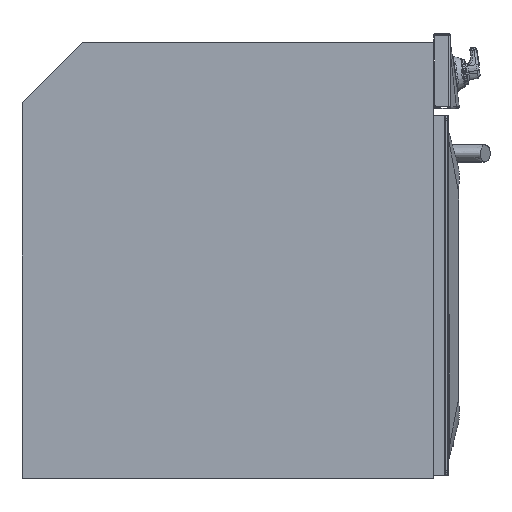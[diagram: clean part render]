
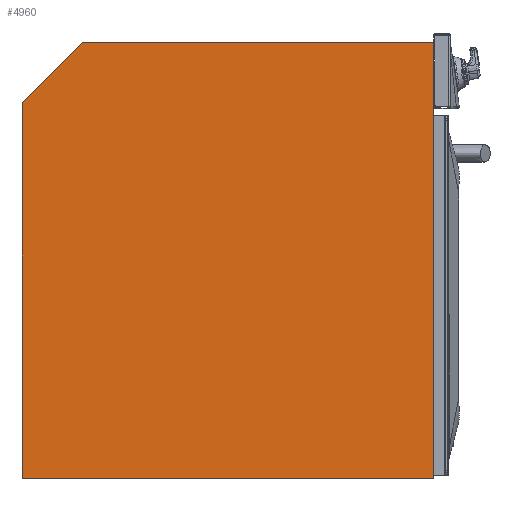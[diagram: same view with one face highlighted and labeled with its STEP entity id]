
A CAD part, front view. The second image highlights one B-rep face of the part: STEP entity #4960.
In plain terms, the highlighted planar face has unit normal (0, -1, 0).
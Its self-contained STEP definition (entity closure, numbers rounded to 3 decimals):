
#4960=ADVANCED_FACE('',(#6288),#5875,.T.);
#5875=PLANE('',#19215);
#6288=FACE_OUTER_BOUND('',#7313,.T.);
#7313=EDGE_LOOP('',(#9183,#9184,#9185,#9186,#9187));
#9183=ORIENTED_EDGE('',*,*,#15021,.T.);
#9184=ORIENTED_EDGE('',*,*,#15025,.T.);
#9185=ORIENTED_EDGE('',*,*,#15028,.T.);
#9186=ORIENTED_EDGE('',*,*,#15031,.T.);
#9187=ORIENTED_EDGE('',*,*,#15034,.T.);
#13369=VERTEX_POINT('',#34792);
#13370=VERTEX_POINT('',#34793);
#13373=VERTEX_POINT('',#34801);
#13375=VERTEX_POINT('',#34807);
#13377=VERTEX_POINT('',#34813);
#15021=EDGE_CURVE('',#13369,#13370,#17119,.T.);
#15025=EDGE_CURVE('',#13370,#13373,#17123,.T.);
#15028=EDGE_CURVE('',#13373,#13375,#17126,.T.);
#15031=EDGE_CURVE('',#13375,#13377,#17129,.T.);
#15034=EDGE_CURVE('',#13377,#13369,#17132,.T.);
#17119=LINE('',#34791,#18048);
#17123=LINE('',#34800,#18052);
#17126=LINE('',#34806,#18055);
#17129=LINE('',#34812,#18058);
#17132=LINE('',#34818,#18061);
#18048=VECTOR('',#21419,1.);
#18052=VECTOR('',#21425,1.);
#18055=VECTOR('',#21430,1.);
#18058=VECTOR('',#21435,1.);
#18061=VECTOR('',#21440,1.);
#19215=AXIS2_PLACEMENT_3D('',#34822,#21446,#21447);
#21419=DIRECTION('',(-1.,0.,0.));
#21425=DIRECTION('',(-0.707,0.,-0.707));
#21430=DIRECTION('',(0.,0.,-1.));
#21435=DIRECTION('',(1.,0.,0.));
#21440=DIRECTION('',(0.,0.,1.));
#21446=DIRECTION('',(0.,-1.,0.));
#21447=DIRECTION('',(0.,0.,-1.));
#34791=CARTESIAN_POINT('',(548.,0.,580.));
#34792=CARTESIAN_POINT('',(548.,0.,580.));
#34793=CARTESIAN_POINT('',(80.,0.,580.));
#34800=CARTESIAN_POINT('',(80.,0.,580.));
#34801=CARTESIAN_POINT('',(0.,0.,500.));
#34806=CARTESIAN_POINT('',(0.,0.,500.));
#34807=CARTESIAN_POINT('',(0.,0.,0.));
#34812=CARTESIAN_POINT('',(0.,0.,0.));
#34813=CARTESIAN_POINT('',(548.,0.,0.));
#34818=CARTESIAN_POINT('',(548.,0.,0.));
#34822=CARTESIAN_POINT('',(0.,0.,580.));
